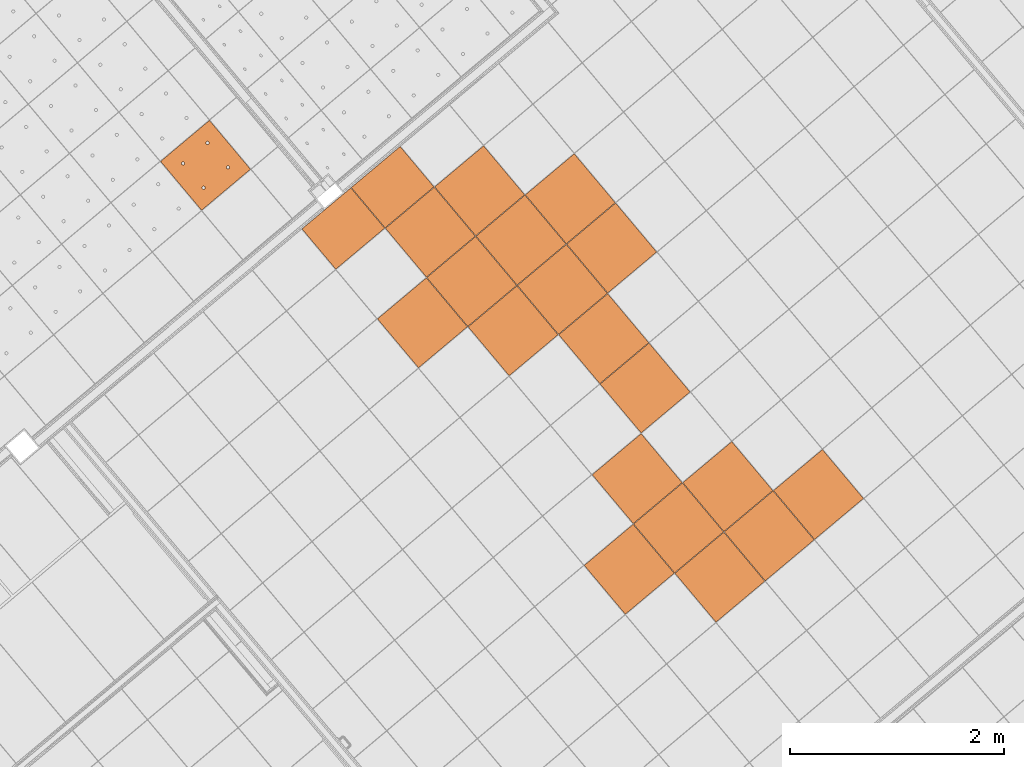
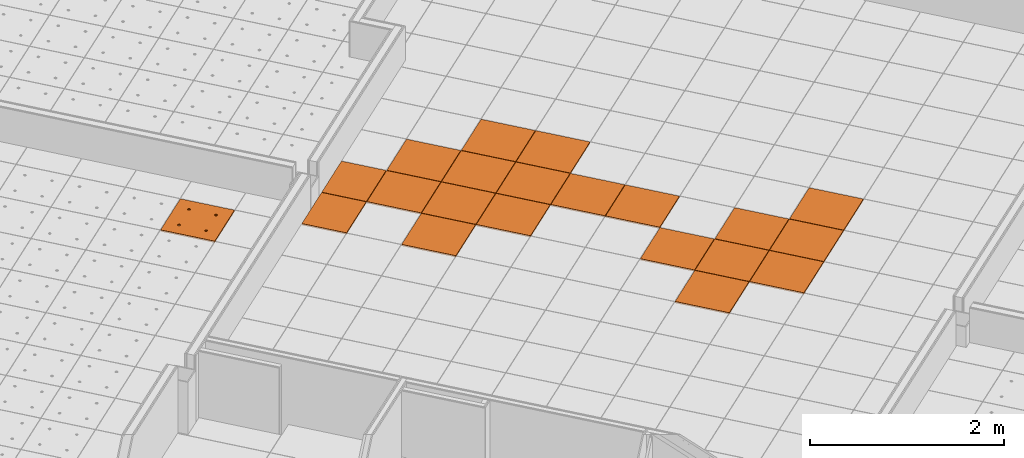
# One storey, part 150 of 338: 21 proxies, 2 elements without a shape of their own.
"""IFC2X3 building model written with IfcOpenShell, lengths in millimetres."""

from ifc_helpers import new_model, entity, si_unit, converted_unit, derived_unit, money_unit, direction, frame, origin_with_axes, place, context, subcontext, project, spatial, faceted_brep, source, transform, mapped, material, type_object, type_shapes, element, aggregate, save


model = new_model("IFC2X3")

# Units and contexts
model_context = context("Model", 3, precision=0.01, world=origin_with_axes(), true_north=direction((0.0, 1.0)))
plan_context = context("Plan", 3, precision=0.01, world=origin_with_axes(), true_north=direction((0.0, 1.0)))
body_context = subcontext(model_context, "Body", "Model", "MODEL_VIEW")
ifc_project = project(units=[si_unit("LENGTHUNIT", "METRE", prefix="MILLI"), si_unit("AREAUNIT", "SQUARE_METRE"), si_unit("VOLUMEUNIT", "CUBIC_METRE"), converted_unit("PLANEANGLEUNIT", "DEGREE", entity("IfcPlaneAngleMeasure", 0.0174532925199), si_unit("PLANEANGLEUNIT", "RADIAN"), dimensions=[0, 0, 0, 0, 0, 0, 0]), money_unit("EUR"), converted_unit("TIMEUNIT", "Year", entity("IfcTimeMeasure", 31556926.0), si_unit("TIMEUNIT", "SECOND"), dimensions=[0, 0, 1, 0, 0, 0, 0]), si_unit("MASSUNIT", "GRAM", prefix="KILO"), si_unit("THERMODYNAMICTEMPERATUREUNIT", "DEGREE_CELSIUS"), si_unit("LUMINOUSINTENSITYUNIT", "LUMEN"), si_unit("ENERGYUNIT", "JOULE", prefix="MEGA"), derived_unit("THERMALCONDUCTANCEUNIT", [(si_unit("POWERUNIT", "WATT"), 1), (si_unit("LENGTHUNIT", "METRE"), -1), (si_unit("THERMODYNAMICTEMPERATUREUNIT", "KELVIN"), -1)]), derived_unit("SPECIFICHEATCAPACITYUNIT", [(si_unit("ENERGYUNIT", "JOULE"), 1), (si_unit("MASSUNIT", "GRAM", prefix="KILO"), -1), (si_unit("THERMODYNAMICTEMPERATUREUNIT", "KELVIN"), -1)]), derived_unit("MASSDENSITYUNIT", [(si_unit("MASSUNIT", "GRAM", prefix="KILO"), 1), (si_unit("VOLUMEUNIT", "CUBIC_METRE"), -1)])], contexts=[model_context, plan_context])

# Site, building, storey
site_placement = place(None, origin_with_axes())
site = spatial("IfcSite", under=ifc_project, at=site_placement, Name="Fortuinstraat Woensdrecht", CompositionType="ELEMENT")
building_placement = place(site_placement, origin_with_axes())
building = spatial("IfcBuilding", under=site, at=building_placement, Name="IKC Fortuna", CompositionType="ELEMENT")
storey_placement = place(building_placement, origin_with_axes())
storey = spatial("IfcBuildingStorey", under=building, at=storey_placement, Name="00 begane grond", CompositionType="ELEMENT", Elevation=0.0)

# Covering, proxies
covering_type = type_object("IfcCoveringType", Name="Curtain Wall Type", PredefinedType="CEILING")
covering_1_placement = place(storey_placement, frame((17937.1227498, -4186.27868692, 4660.0), z_axis=(0.0, 0.0, 1.0), x_axis=(1.0, 0.0, 0.0)))
covering_1 = element("IfcCovering", 1, at=covering_1_placement, inside=storey, type_object=covering_type, Name="45_Plafondafwerking_P02", PredefinedType="CEILING")
ifc_material = material(Name="Gipsplaat")
building_element_proxy_type_1 = type_object("IfcBuildingElementProxyType", Name="Distinct Panel 600 x 600 x 20", PredefinedType="NOTDEFINED")
shared_shape_1 = source(origin_with_axes(), body_context, "Body", "Brep", [
    faceted_brep([(2.49999999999, 2.5, -10.0), (597.5, 2.49999999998, -10.0), (597.5, 2.49999999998, 10.0), (2.49999999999, 2.5, 10.0), (2.50000000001, 597.5, -10.0), (597.5, 597.5, -10.0), (597.5, 597.5, 10.0), (2.50000000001, 597.5, 10.0)], [[[0, 1, 2, 3]], [[0, 4, 5, 1]], [[1, 5, 6, 2]], [[3, 2, 6, 7]], [[4, 0, 3, 7]], [[5, 4, 7, 6]]]),
])
type_shapes(building_element_proxy_type_1, [shared_shape_1])
proxy_1_placement = place(covering_1_placement, frame((-5145.52891833, 3331.89737162, 1.1990408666e-10), z_axis=(0.0, 0.0, 1.0), x_axis=(1.0, 0.0, 0.0)))
proxy_1 = element("IfcBuildingElementProxy", 2, at=proxy_1_placement, type_object=building_element_proxy_type_1, material=ifc_material, Name="__Panel-D", context=body_context, shape_type="MappedRepresentation", body=[
    mapped(shared_shape_1, transform((36.9769427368, 422.649625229, 0.0), x_axis=(-0.766044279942, -0.642787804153, 0.0), y_axis=(0.642787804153, -0.766044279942, 0.0), z_axis=(0.0, 0.0, 1.0))),
])
proxy_2_placement = place(covering_1_placement, frame((-5990.82816879, 3405.85125709, 1.39444011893e-10), z_axis=(0.0, 0.0, 1.0), x_axis=(1.0, 0.0, 0.0)))
proxy_2 = element("IfcBuildingElementProxy", 3, at=proxy_2_placement, type_object=building_element_proxy_type_1, material=ifc_material, Name="__Panel-D", context=body_context, shape_type="MappedRepresentation", body=[
    mapped(shared_shape_1, transform((36.9769427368, 422.649625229, 0.0), x_axis=(-0.766044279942, -0.642787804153, 0.0), y_axis=(0.642787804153, -0.766044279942, 0.0), z_axis=(0.0, 0.0, 1.0))),
])
proxy_3_placement = place(covering_1_placement, frame((-5679.10937177, 2100.92543867, 1.58983937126e-10), z_axis=(0.0, 0.0, 1.0), x_axis=(1.0, 0.0, 0.0)))
proxy_3 = element("IfcBuildingElementProxy", 4, at=proxy_3_placement, type_object=building_element_proxy_type_1, material=ifc_material, Name="__Panel-D", context=body_context, shape_type="MappedRepresentation", body=[
    mapped(shared_shape_1, transform((36.9769427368, 422.649625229, 0.0), x_axis=(-0.766044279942, -0.642787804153, 0.0), y_axis=(0.642787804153, -0.766044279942, 0.0), z_axis=(0.0, 0.0, 1.0))),
])
proxy_4_placement = place(covering_1_placement, frame((-6524.40862223, 2174.87932414, 1.79412040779e-10), z_axis=(0.0, 0.0, 1.0), x_axis=(1.0, 0.0, 0.0)))
proxy_4 = element("IfcBuildingElementProxy", 5, at=proxy_4_placement, type_object=building_element_proxy_type_1, material=ifc_material, Name="__Panel-D", context=body_context, shape_type="MappedRepresentation", body=[
    mapped(shared_shape_1, transform((36.9769427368, 422.649625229, 0.0), x_axis=(-0.766044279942, -0.642787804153, 0.0), y_axis=(0.642787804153, -0.766044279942, 0.0), z_axis=(0.0, 0.0, 1.0))),
])
proxy_5_placement = place(covering_1_placement, frame((-6450.45473675, 3020.1785746, 1.58983937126e-10), z_axis=(0.0, 0.0, 1.0), x_axis=(1.0, 0.0, 0.0)))
proxy_5 = element("IfcBuildingElementProxy", 6, at=proxy_5_placement, type_object=building_element_proxy_type_1, material=ifc_material, Name="__Panel-D", context=body_context, shape_type="MappedRepresentation", body=[
    mapped(shared_shape_1, transform((36.9769427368, 422.649625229, 0.0), x_axis=(-0.766044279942, -0.642787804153, 0.0), y_axis=(0.642787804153, -0.766044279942, 0.0), z_axis=(0.0, 0.0, 1.0))),
])
proxy_6_placement = place(covering_1_placement, frame((-5605.1554863, 2946.22468912, 1.39444011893e-10), z_axis=(0.0, 0.0, 1.0), x_axis=(1.0, 0.0, 0.0)))
proxy_6 = element("IfcBuildingElementProxy", 7, at=proxy_6_placement, type_object=building_element_proxy_type_1, material=ifc_material, Name="__Panel-D", context=body_context, shape_type="MappedRepresentation", body=[
    mapped(shared_shape_1, transform((36.9769427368, 422.649625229, 0.0), x_axis=(-0.766044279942, -0.642787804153, 0.0), y_axis=(0.642787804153, -0.766044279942, 0.0), z_axis=(0.0, 0.0, 1.0))),
])
proxy_7_placement = place(covering_1_placement, frame((-6064.78205426, 2560.55200663, 1.58983937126e-10), z_axis=(0.0, 0.0, 1.0), x_axis=(1.0, 0.0, 0.0)))
proxy_7 = element("IfcBuildingElementProxy", 8, at=proxy_7_placement, type_object=building_element_proxy_type_1, material=ifc_material, Name="__Panel-D", context=body_context, shape_type="MappedRepresentation", body=[
    mapped(shared_shape_1, transform((36.9769427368, 422.649625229, 0.0), x_axis=(-0.766044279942, -0.642787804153, 0.0), y_axis=(0.642787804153, -0.766044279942, 0.0), z_axis=(0.0, 0.0, 1.0))),
])
proxy_8_placement = place(covering_1_placement, frame((-4759.85623584, 2872.27080365, 1.1990408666e-10), z_axis=(0.0, 0.0, 1.0), x_axis=(1.0, 0.0, 0.0)))
proxy_8 = element("IfcBuildingElementProxy", 9, at=proxy_8_placement, type_object=building_element_proxy_type_1, material=ifc_material, Name="__Panel-D", context=body_context, shape_type="MappedRepresentation", body=[
    mapped(shared_shape_1, transform((36.9769427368, 422.649625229, 0.0), x_axis=(-0.766044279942, -0.642787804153, 0.0), y_axis=(0.642787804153, -0.766044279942, 0.0), z_axis=(0.0, 0.0, 1.0))),
])
proxy_9_placement = place(covering_1_placement, frame((-2831.49282338, 574.137963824, 1.1990408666e-10), z_axis=(0.0, 0.0, 1.0), x_axis=(1.0, 0.0, 0.0)))
proxy_9 = element("IfcBuildingElementProxy", 10, at=proxy_9_placement, type_object=building_element_proxy_type_1, material=ifc_material, Name="__Panel-D", context=body_context, shape_type="MappedRepresentation", body=[
    mapped(shared_shape_1, transform((36.9769427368, 422.649625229, 0.0), x_axis=(-0.766044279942, -0.642787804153, 0.0), y_axis=(0.642787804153, -0.766044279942, 0.0), z_axis=(0.0, 0.0, 1.0))),
])
proxy_10_placement = place(covering_1_placement, frame((-5219.4828038, 2486.59812116, 1.39444011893e-10), z_axis=(0.0, 0.0, 1.0), x_axis=(1.0, 0.0, 0.0)))
proxy_10 = element("IfcBuildingElementProxy", 11, at=proxy_10_placement, type_object=building_element_proxy_type_1, material=ifc_material, Name="__Panel-D", context=body_context, shape_type="MappedRepresentation", body=[
    mapped(shared_shape_1, transform((36.9769427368, 422.649625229, 0.0), x_axis=(-0.766044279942, -0.642787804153, 0.0), y_axis=(0.642787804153, -0.766044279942, 0.0), z_axis=(0.0, 0.0, 1.0))),
])
proxy_11_placement = place(covering_1_placement, frame((-4833.81012131, 2026.97155319, 1.39444011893e-10), z_axis=(0.0, 0.0, 1.0), x_axis=(1.0, 0.0, 0.0)))
proxy_11 = element("IfcBuildingElementProxy", 12, at=proxy_11_placement, type_object=building_element_proxy_type_1, material=ifc_material, Name="__Panel-D", context=body_context, shape_type="MappedRepresentation", body=[
    mapped(shared_shape_1, transform((36.9769427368, 422.649625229, 0.0), x_axis=(-0.766044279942, -0.642787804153, 0.0), y_axis=(0.642787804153, -0.766044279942, 0.0), z_axis=(0.0, 0.0, 1.0))),
])
proxy_12_placement = place(covering_1_placement, frame((-4448.13743882, 1567.34498523, 1.39444011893e-10), z_axis=(0.0, 0.0, 1.0), x_axis=(1.0, 0.0, 0.0)))
proxy_12 = element("IfcBuildingElementProxy", 13, at=proxy_12_placement, type_object=building_element_proxy_type_1, material=ifc_material, Name="__Panel-D", context=body_context, shape_type="MappedRepresentation", body=[
    mapped(shared_shape_1, transform((36.9769427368, 422.649625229, 0.0), x_axis=(-0.766044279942, -0.642787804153, 0.0), y_axis=(0.642787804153, -0.766044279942, 0.0), z_axis=(0.0, 0.0, 1.0))),
])
proxy_13_placement = place(covering_1_placement, frame((-3676.79207384, 648.091849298, 1.39444011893e-10), z_axis=(0.0, 0.0, 1.0), x_axis=(1.0, 0.0, 0.0)))
proxy_13 = element("IfcBuildingElementProxy", 14, at=proxy_13_placement, type_object=building_element_proxy_type_1, material=ifc_material, Name="__Panel-D", context=body_context, shape_type="MappedRepresentation", body=[
    mapped(shared_shape_1, transform((36.9769427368, 422.649625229, 0.0), x_axis=(-0.766044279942, -0.642787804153, 0.0), y_axis=(0.642787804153, -0.766044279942, 0.0), z_axis=(0.0, 0.0, 1.0))),
])
proxy_14_placement = place(covering_1_placement, frame((-3291.11939135, 188.465281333, 1.39444011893e-10), z_axis=(0.0, 0.0, 1.0), x_axis=(1.0, 0.0, 0.0)))
proxy_14 = element("IfcBuildingElementProxy", 15, at=proxy_14_placement, type_object=building_element_proxy_type_1, material=ifc_material, Name="__Panel-D", context=body_context, shape_type="MappedRepresentation", body=[
    mapped(shared_shape_1, transform((36.9769427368, 422.649625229, 0.0), x_axis=(-0.766044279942, -0.642787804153, 0.0), y_axis=(0.642787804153, -0.766044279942, 0.0), z_axis=(0.0, 0.0, 1.0))),
])
proxy_15_placement = place(covering_1_placement, frame((-4522.09132429, 722.045734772, 1.58983937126e-10), z_axis=(0.0, 0.0, 1.0), x_axis=(1.0, 0.0, 0.0)))
proxy_15 = element("IfcBuildingElementProxy", 16, at=proxy_15_placement, type_object=building_element_proxy_type_1, material=ifc_material, Name="__Panel-D", context=body_context, shape_type="MappedRepresentation", body=[
    mapped(shared_shape_1, transform((36.9769427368, 422.649625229, 0.0), x_axis=(-0.766044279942, -0.642787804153, 0.0), y_axis=(0.642787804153, -0.766044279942, 0.0), z_axis=(0.0, 0.0, 1.0))),
])
proxy_16_placement = place(covering_1_placement, frame((-4136.4186418, 262.419166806, 1.58983937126e-10), z_axis=(0.0, 0.0, 1.0), x_axis=(1.0, 0.0, 0.0)))
proxy_16 = element("IfcBuildingElementProxy", 17, at=proxy_16_placement, type_object=building_element_proxy_type_1, material=ifc_material, Name="__Panel-D", context=body_context, shape_type="MappedRepresentation", body=[
    mapped(shared_shape_1, transform((36.9769427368, 422.649625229, 0.0), x_axis=(-0.766044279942, -0.642787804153, 0.0), y_axis=(0.642787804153, -0.766044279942, 0.0), z_axis=(0.0, 0.0, 1.0))),
])
proxy_17_placement = place(covering_1_placement, frame((-3750.74595931, -197.207401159, 1.58983937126e-10), z_axis=(0.0, 0.0, 1.0), x_axis=(1.0, 0.0, 0.0)))
proxy_17 = element("IfcBuildingElementProxy", 18, at=proxy_17_placement, type_object=building_element_proxy_type_1, material=ifc_material, Name="__Panel-D", context=body_context, shape_type="MappedRepresentation", body=[
    mapped(shared_shape_1, transform((36.9769427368, 422.649625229, 0.0), x_axis=(-0.766044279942, -0.642787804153, 0.0), y_axis=(0.642787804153, -0.766044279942, 0.0), z_axis=(0.0, 0.0, 1.0))),
])
proxy_18_placement = place(covering_1_placement, frame((-4596.04520977, -123.253515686, 1.79412040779e-10), z_axis=(0.0, 0.0, 1.0), x_axis=(1.0, 0.0, 0.0)))
proxy_18 = element("IfcBuildingElementProxy", 19, at=proxy_18_placement, type_object=building_element_proxy_type_1, material=ifc_material, Name="__Panel-D", context=body_context, shape_type="MappedRepresentation", body=[
    mapped(shared_shape_1, transform((36.9769427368, 422.649625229, 0.0), x_axis=(-0.766044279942, -0.642787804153, 0.0), y_axis=(0.642787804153, -0.766044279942, 0.0), z_axis=(0.0, 0.0, 1.0))),
])
building_element_proxy_type_2 = type_object("IfcBuildingElementProxyType", Name="Distinct Panel 600 x 495 x 20", PredefinedType="NOTDEFINED")
shared_shape_2 = source(origin_with_axes(), body_context, "Body", "Brep", [
    faceted_brep([(2.49999363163, 107.227066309, -10.0), (597.499995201, 107.226926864, -10.0), (597.499995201, 107.226926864, 10.0), (2.49999363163, 107.227066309, 10.0), (2.50000062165, 597.499998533, -10.0), (597.500007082, 597.499990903, -10.0), (597.500007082, 597.499990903, 10.0), (2.50000062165, 597.499998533, 10.0)], [[[0, 1, 2, 3]], [[0, 4, 5, 1]], [[1, 5, 6, 2]], [[3, 2, 6, 7]], [[4, 0, 3, 7]], [[5, 4, 7, 6]]]),
])
type_shapes(building_element_proxy_type_2, [shared_shape_2])
proxy_19_placement = place(covering_1_placement, frame((-7262.09523736, 3054.0195447, 1.79412040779e-10), z_axis=(0.0, 0.0, 1.0), x_axis=(1.0, 0.0, 0.0)))
proxy_19 = element("IfcBuildingElementProxy", 20, at=proxy_19_placement, type_object=building_element_proxy_type_2, material=ifc_material, Name="__Panel-D", context=body_context, shape_type="MappedRepresentation", body=[
    mapped(shared_shape_2, transform((3.31819288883, 462.762540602, 0.0), x_axis=(-0.766044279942, -0.642787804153, 0.0), y_axis=(0.642787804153, -0.766044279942, 0.0), z_axis=(0.0, 0.0, 1.0))),
])
proxy_20_placement = place(covering_1_placement, frame((-6802.46862553, 3439.69217491, 1.58983937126e-10), z_axis=(0.0, 0.0, 1.0), x_axis=(1.0, 0.0, 0.0)))
proxy_20 = element("IfcBuildingElementProxy", 21, at=proxy_20_placement, type_object=building_element_proxy_type_2, material=ifc_material, Name="__Panel-D", context=body_context, shape_type="MappedRepresentation", body=[
    mapped(shared_shape_2, transform((3.3181490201, 462.762592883, 0.0), x_axis=(-0.766044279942, -0.642787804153, 0.0), y_axis=(0.642787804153, -0.766044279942, 0.0), z_axis=(0.0, 0.0, 1.0))),
])
aggregate(covering_1, [proxy_1, proxy_2, proxy_3, proxy_4, proxy_19, proxy_5, proxy_6, proxy_7, proxy_8, proxy_9, proxy_10, proxy_11, proxy_12, proxy_13, proxy_14, proxy_15, proxy_16, proxy_17, proxy_18, proxy_20])

# Covering, proxy
covering_2_placement = place(storey_placement, frame((9775.85169731, -1002.28242867, 4660.0), z_axis=(0.0, 0.0, 1.0), x_axis=(1.0, 0.0, 0.0)))
covering_2 = element("IfcCovering", 22, at=covering_2_placement, inside=storey, type_object=covering_type, Name="45_Plafondafwerking_P01", PredefinedType="CEILING")
building_element_proxy_type_3 = type_object("IfcBuildingElementProxyType", Name="Main Panel 600 x 600 x 20", PredefinedType="NOTDEFINED")
shared_shape_3 = source(origin_with_axes(), body_context, "Body", "Brep", [
    faceted_brep([(2.49999999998, 2.49999999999, -10.0), (300.0, 2.49999999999, -10.0), (300.0, 2.49999999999, 10.0), (2.49999999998, 2.49999999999, 10.0), (2.49999999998, 300.0, -10.0), (2.49999999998, 597.5, -10.0), (300.0, 597.5, -10.0), (597.5, 597.5, -10.0), (597.5, 300.0, -10.0), (597.5, 2.49999999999, -10.0), (166.25, 450.06232995, -10.0), (165.79423259, 452.64711538, -10.0), (164.896546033, 455.11348892, -10.0), (163.58421608, 457.38651108, -10.0), (161.897117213, 459.39711721, -10.0), (159.886511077, 461.08421608, -10.0), (157.613488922, 462.39654603, -10.0), (155.147115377, 463.29423259, -10.0), (152.562329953, 463.75, -10.0), (149.937670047, 463.75, -10.0), (147.352884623, 463.29423259, -10.0), (144.886511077, 462.39654603, -10.0), (142.613488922, 461.08421608, -10.0), (140.602882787, 459.39711721, -10.0), (138.91578392, 457.38651108, -10.0), (137.603453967, 455.11348892, -10.0), (136.705767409, 452.64711538, -10.0), (136.25, 450.06232995, -10.0), (136.25, 448.75, -10.0), (136.25, 447.43767005, -10.0), (136.705767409, 444.85288462, -10.0), (137.603453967, 442.38651108, -10.0), (138.91578392, 440.11348892, -10.0), (140.602882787, 438.10288279, -10.0), (142.613488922, 436.41578392, -10.0), (144.886511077, 435.10345397, -10.0), (147.352884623, 434.20576741, -10.0), (149.937670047, 433.75, -10.0), (152.562329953, 433.75, -10.0), (155.147115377, 434.20576741, -10.0), (157.613488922, 435.10345397, -10.0), (159.886511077, 436.41578392, -10.0), (161.897117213, 438.10288279, -10.0), (163.58421608, 440.11348892, -10.0), (164.896546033, 442.38651108, -10.0), (165.79423259, 444.85288462, -10.0), (166.25, 447.43767005, -10.0), (463.75, 450.06232995, -10.0), (463.29423259, 452.64711538, -10.0), (462.396546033, 455.11348892, -10.0), (461.08421608, 457.38651108, -10.0), (459.397117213, 459.39711721, -10.0), (457.386511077, 461.08421608, -10.0), (455.113488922, 462.39654603, -10.0), (452.647115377, 463.29423259, -10.0), (450.062329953, 463.75, -10.0), (447.437670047, 463.75, -10.0), (444.852884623, 463.29423259, -10.0), (442.386511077, 462.39654603, -10.0), (440.113488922, 461.08421608, -10.0), (438.102882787, 459.39711721, -10.0), (436.41578392, 457.38651108, -10.0), (435.103453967, 455.11348892, -10.0), (434.205767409, 452.64711538, -10.0), (433.75, 450.06232995, -10.0), (433.75, 448.75, -10.0), (433.75, 447.43767005, -10.0), (434.205767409, 444.85288462, -10.0), (435.103453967, 442.38651108, -10.0), (436.41578392, 440.11348892, -10.0), (438.102882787, 438.10288279, -10.0), (440.113488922, 436.41578392, -10.0), (442.386511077, 435.10345397, -10.0), (444.852884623, 434.20576741, -10.0), (447.437670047, 433.75, -10.0), (450.062329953, 433.75, -10.0), (452.647115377, 434.20576741, -10.0), (455.113488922, 435.10345397, -10.0), (457.386511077, 436.41578392, -10.0), (459.397117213, 438.10288279, -10.0), (461.08421608, 440.11348892, -10.0), (462.396546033, 442.38651108, -10.0), (463.29423259, 444.85288462, -10.0), (463.75, 447.43767005, -10.0), (463.75, 152.56232995, -10.0), (463.29423259, 155.14711538, -10.0), (462.396546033, 157.61348892, -10.0), (461.08421608, 159.88651108, -10.0), (459.397117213, 161.89711721, -10.0), (457.386511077, 163.58421608, -10.0), (455.113488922, 164.89654603, -10.0), (452.647115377, 165.79423259, -10.0), (450.062329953, 166.25, -10.0), (447.437670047, 166.25, -10.0), (444.852884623, 165.79423259, -10.0), (442.386511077, 164.89654603, -10.0), (440.113488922, 163.58421608, -10.0), (438.102882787, 161.89711721, -10.0), (436.41578392, 159.88651108, -10.0), (435.103453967, 157.61348892, -10.0), (434.205767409, 155.14711538, -10.0), (433.75, 152.56232995, -10.0), (433.75, 151.25, -10.0), (433.75, 149.93767005, -10.0), (434.205767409, 147.35288462, -10.0), (435.103453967, 144.88651108, -10.0), (436.41578392, 142.61348892, -10.0), (438.102882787, 140.60288279, -10.0), (440.113488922, 138.91578392, -10.0), (442.386511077, 137.60345397, -10.0), (444.852884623, 136.70576741, -10.0), (447.437670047, 136.25, -10.0), (450.062329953, 136.25, -10.0), (452.647115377, 136.70576741, -10.0), (455.113488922, 137.60345397, -10.0), (457.386511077, 138.91578392, -10.0), (459.397117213, 140.60288279, -10.0), (461.08421608, 142.61348892, -10.0), (462.396546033, 144.88651108, -10.0), (463.29423259, 147.35288462, -10.0), (463.75, 149.93767005, -10.0), (166.25, 152.56232995, -10.0), (165.79423259, 155.14711538, -10.0), (164.896546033, 157.61348892, -10.0), (163.58421608, 159.88651108, -10.0), (161.897117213, 161.89711721, -10.0), (159.886511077, 163.58421608, -10.0), (157.613488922, 164.89654603, -10.0), (155.147115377, 165.79423259, -10.0), (152.562329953, 166.25, -10.0), (149.937670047, 166.25, -10.0), (147.352884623, 165.79423259, -10.0), (144.886511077, 164.89654603, -10.0), (142.613488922, 163.58421608, -10.0), (140.602882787, 161.89711721, -10.0), (138.91578392, 159.88651108, -10.0), (137.603453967, 157.61348892, -10.0), (136.705767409, 155.14711538, -10.0), (136.25, 152.56232995, -10.0), (136.25, 151.25, -10.0), (136.25, 149.93767005, -10.0), (136.705767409, 147.35288462, -10.0), (137.603453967, 144.88651108, -10.0), (138.91578392, 142.61348892, -10.0), (140.602882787, 140.60288279, -10.0), (142.613488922, 138.91578392, -10.0), (144.886511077, 137.60345397, -10.0), (147.352884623, 136.70576741, -10.0), (149.937670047, 136.25, -10.0), (152.562329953, 136.25, -10.0), (155.147115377, 136.70576741, -10.0), (157.613488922, 137.60345397, -10.0), (159.886511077, 138.91578392, -10.0), (161.897117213, 140.60288279, -10.0), (163.58421608, 142.61348892, -10.0), (164.896546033, 144.88651108, -10.0), (165.79423259, 147.35288462, -10.0), (166.25, 149.93767005, -10.0), (597.5, 2.49999999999, 10.0), (597.5, 300.0, 10.0), (597.5, 597.5, 10.0), (300.0, 597.5, 10.0), (2.49999999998, 597.5, 10.0), (2.49999999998, 300.0, 10.0), (166.25, 450.06232995, 10.0), (166.25, 447.43767005, 10.0), (165.79423259, 444.85288462, 10.0), (164.896546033, 442.38651108, 10.0), (163.58421608, 440.11348892, 10.0), (161.897117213, 438.10288279, 10.0), (159.886511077, 436.41578392, 10.0), (157.613488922, 435.10345397, 10.0), (155.147115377, 434.20576741, 10.0), (152.562329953, 433.75, 10.0), (149.937670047, 433.75, 10.0), (147.352884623, 434.20576741, 10.0), (144.886511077, 435.10345397, 10.0), (142.613488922, 436.41578392, 10.0), (140.602882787, 438.10288279, 10.0), (138.91578392, 440.11348892, 10.0), (137.603453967, 442.38651108, 10.0), (136.705767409, 444.85288462, 10.0), (136.25, 447.43767005, 10.0), (136.25, 448.75, 10.0), (136.25, 450.06232995, 10.0), (136.705767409, 452.64711538, 10.0), (137.603453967, 455.11348892, 10.0), (138.91578392, 457.38651108, 10.0), (140.602882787, 459.39711721, 10.0), (142.613488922, 461.08421608, 10.0), (144.886511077, 462.39654603, 10.0), (147.352884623, 463.29423259, 10.0), (149.937670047, 463.75, 10.0), (152.562329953, 463.75, 10.0), (155.147115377, 463.29423259, 10.0), (157.613488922, 462.39654603, 10.0), (159.886511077, 461.08421608, 10.0), (161.897117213, 459.39711721, 10.0), (163.58421608, 457.38651108, 10.0), (164.896546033, 455.11348892, 10.0), (165.79423259, 452.64711538, 10.0), (463.75, 450.06232995, 10.0), (463.75, 447.43767005, 10.0), (463.29423259, 444.85288462, 10.0), (462.396546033, 442.38651108, 10.0), (461.08421608, 440.11348892, 10.0), (459.397117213, 438.10288279, 10.0), (457.386511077, 436.41578392, 10.0), (455.113488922, 435.10345397, 10.0), (452.647115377, 434.20576741, 10.0), (450.062329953, 433.75, 10.0), (447.437670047, 433.75, 10.0), (444.852884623, 434.20576741, 10.0), (442.386511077, 435.10345397, 10.0), (440.113488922, 436.41578392, 10.0), (438.102882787, 438.10288279, 10.0), (436.41578392, 440.11348892, 10.0), (435.103453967, 442.38651108, 10.0), (434.205767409, 444.85288462, 10.0), (433.75, 447.43767005, 10.0), (433.75, 448.75, 10.0), (433.75, 450.06232995, 10.0), (434.205767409, 452.64711538, 10.0), (435.103453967, 455.11348892, 10.0), (436.41578392, 457.38651108, 10.0), (438.102882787, 459.39711721, 10.0), (440.113488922, 461.08421608, 10.0), (442.386511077, 462.39654603, 10.0), (444.852884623, 463.29423259, 10.0), (447.437670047, 463.75, 10.0), (450.062329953, 463.75, 10.0), (452.647115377, 463.29423259, 10.0), (455.113488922, 462.39654603, 10.0), (457.386511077, 461.08421608, 10.0), (459.397117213, 459.39711721, 10.0), (461.08421608, 457.38651108, 10.0), (462.396546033, 455.11348892, 10.0), (463.29423259, 452.64711538, 10.0), (463.75, 152.56232995, 10.0), (463.75, 149.93767005, 10.0), (463.29423259, 147.35288462, 10.0), (462.396546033, 144.88651108, 10.0), (461.08421608, 142.61348892, 10.0), (459.397117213, 140.60288279, 10.0), (457.386511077, 138.91578392, 10.0), (455.113488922, 137.60345397, 10.0), (452.647115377, 136.70576741, 10.0), (450.062329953, 136.25, 10.0), (447.437670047, 136.25, 10.0), (444.852884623, 136.70576741, 10.0), (442.386511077, 137.60345397, 10.0), (440.113488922, 138.91578392, 10.0), (438.102882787, 140.60288279, 10.0), (436.41578392, 142.61348892, 10.0), (435.103453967, 144.88651108, 10.0), (434.205767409, 147.35288462, 10.0), (433.75, 149.93767005, 10.0), (433.75, 151.25, 10.0), (433.75, 152.56232995, 10.0), (434.205767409, 155.14711538, 10.0), (435.103453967, 157.61348892, 10.0), (436.41578392, 159.88651108, 10.0), (438.102882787, 161.89711721, 10.0), (440.113488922, 163.58421608, 10.0), (442.386511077, 164.89654603, 10.0), (444.852884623, 165.79423259, 10.0), (447.437670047, 166.25, 10.0), (450.062329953, 166.25, 10.0), (452.647115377, 165.79423259, 10.0), (455.113488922, 164.89654603, 10.0), (457.386511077, 163.58421608, 10.0), (459.397117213, 161.89711721, 10.0), (461.08421608, 159.88651108, 10.0), (462.396546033, 157.61348892, 10.0), (463.29423259, 155.14711538, 10.0), (166.25, 152.56232995, 10.0), (166.25, 149.93767005, 10.0), (165.79423259, 147.35288462, 10.0), (164.896546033, 144.88651108, 10.0), (163.58421608, 142.61348892, 10.0), (161.897117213, 140.60288279, 10.0), (159.886511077, 138.91578392, 10.0), (157.613488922, 137.60345397, 10.0), (155.147115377, 136.70576741, 10.0), (152.562329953, 136.25, 10.0), (149.937670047, 136.25, 10.0), (147.352884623, 136.70576741, 10.0), (144.886511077, 137.60345397, 10.0), (142.613488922, 138.91578392, 10.0), (140.602882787, 140.60288279, 10.0), (138.91578392, 142.61348892, 10.0), (137.603453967, 144.88651108, 10.0), (136.705767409, 147.35288462, 10.0), (136.25, 149.93767005, 10.0), (136.25, 151.25, 10.0), (136.25, 152.56232995, 10.0), (136.705767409, 155.14711538, 10.0), (137.603453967, 157.61348892, 10.0), (138.91578392, 159.88651108, 10.0), (140.602882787, 161.89711721, 10.0), (142.613488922, 163.58421608, 10.0), (144.886511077, 164.89654603, 10.0), (147.352884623, 165.79423259, 10.0), (149.937670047, 166.25, 10.0), (152.562329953, 166.25, 10.0), (155.147115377, 165.79423259, 10.0), (157.613488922, 164.89654603, 10.0), (159.886511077, 163.58421608, 10.0), (161.897117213, 161.89711721, 10.0), (163.58421608, 159.88651108, 10.0), (164.896546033, 157.61348892, 10.0), (165.79423259, 155.14711538, 10.0)], [[[0, 1, 2, 3]], [[0, 4, 5, 6, 7, 8, 9, 1], [10, 11, 12, 13, 14, 15, 16, 17, 18, 19, 20, 21, 22, 23, 24, 25, 26, 27, 28, 29, 30, 31, 32, 33, 34, 35, 36, 37, 38, 39, 40, 41, 42, 43, 44, 45, 46], [47, 48, 49, 50, 51, 52, 53, 54, 55, 56, 57, 58, 59, 60, 61, 62, 63, 64, 65, 66, 67, 68, 69, 70, 71, 72, 73, 74, 75, 76, 77, 78, 79, 80, 81, 82, 83], [84, 85, 86, 87, 88, 89, 90, 91, 92, 93, 94, 95, 96, 97, 98, 99, 100, 101, 102, 103, 104, 105, 106, 107, 108, 109, 110, 111, 112, 113, 114, 115, 116, 117, 118, 119, 120], [121, 122, 123, 124, 125, 126, 127, 128, 129, 130, 131, 132, 133, 134, 135, 136, 137, 138, 139, 140, 141, 142, 143, 144, 145, 146, 147, 148, 149, 150, 151, 152, 153, 154, 155, 156, 157]], [[1, 9, 158, 2]], [[3, 2, 158, 159, 160, 161, 162, 163], [164, 165, 166, 167, 168, 169, 170, 171, 172, 173, 174, 175, 176, 177, 178, 179, 180, 181, 182, 183, 184, 185, 186, 187, 188, 189, 190, 191, 192, 193, 194, 195, 196, 197, 198, 199, 200], [201, 202, 203, 204, 205, 206, 207, 208, 209, 210, 211, 212, 213, 214, 215, 216, 217, 218, 219, 220, 221, 222, 223, 224, 225, 226, 227, 228, 229, 230, 231, 232, 233, 234, 235, 236, 237], [238, 239, 240, 241, 242, 243, 244, 245, 246, 247, 248, 249, 250, 251, 252, 253, 254, 255, 256, 257, 258, 259, 260, 261, 262, 263, 264, 265, 266, 267, 268, 269, 270, 271, 272, 273, 274], [275, 276, 277, 278, 279, 280, 281, 282, 283, 284, 285, 286, 287, 288, 289, 290, 291, 292, 293, 294, 295, 296, 297, 298, 299, 300, 301, 302, 303, 304, 305, 306, 307, 308, 309, 310, 311]], [[4, 0, 3, 163]], [[5, 4, 163, 162]], [[6, 5, 162, 161]], [[7, 6, 161, 160]], [[8, 7, 160, 159]], [[9, 8, 159, 158]], [[11, 10, 164, 200]], [[12, 11, 200, 199]], [[13, 12, 199, 198]], [[14, 13, 198, 197]], [[15, 14, 197, 196]], [[16, 15, 196, 195]], [[17, 16, 195, 194]], [[18, 17, 194, 193]], [[19, 18, 193, 192]], [[20, 19, 192, 191]], [[21, 20, 191, 190]], [[22, 21, 190, 189]], [[23, 22, 189, 188]], [[24, 23, 188, 187]], [[25, 24, 187, 186]], [[26, 25, 186, 185]], [[27, 26, 185, 184]], [[28, 27, 184, 183]], [[29, 28, 183, 182]], [[30, 29, 182, 181]], [[31, 30, 181, 180]], [[32, 31, 180, 179]], [[33, 32, 179, 178]], [[34, 33, 178, 177]], [[35, 34, 177, 176]], [[36, 35, 176, 175]], [[37, 36, 175, 174]], [[38, 37, 174, 173]], [[39, 38, 173, 172]], [[40, 39, 172, 171]], [[41, 40, 171, 170]], [[42, 41, 170, 169]], [[43, 42, 169, 168]], [[44, 43, 168, 167]], [[45, 44, 167, 166]], [[46, 45, 166, 165]], [[10, 46, 165, 164]], [[48, 47, 201, 237]], [[49, 48, 237, 236]], [[50, 49, 236, 235]], [[51, 50, 235, 234]], [[52, 51, 234, 233]], [[53, 52, 233, 232]], [[54, 53, 232, 231]], [[55, 54, 231, 230]], [[56, 55, 230, 229]], [[57, 56, 229, 228]], [[58, 57, 228, 227]], [[59, 58, 227, 226]], [[60, 59, 226, 225]], [[61, 60, 225, 224]], [[62, 61, 224, 223]], [[63, 62, 223, 222]], [[64, 63, 222, 221]], [[65, 64, 221, 220]], [[66, 65, 220, 219]], [[67, 66, 219, 218]], [[68, 67, 218, 217]], [[69, 68, 217, 216]], [[70, 69, 216, 215]], [[71, 70, 215, 214]], [[72, 71, 214, 213]], [[73, 72, 213, 212]], [[74, 73, 212, 211]], [[75, 74, 211, 210]], [[76, 75, 210, 209]], [[77, 76, 209, 208]], [[78, 77, 208, 207]], [[79, 78, 207, 206]], [[80, 79, 206, 205]], [[81, 80, 205, 204]], [[82, 81, 204, 203]], [[83, 82, 203, 202]], [[47, 83, 202, 201]], [[85, 84, 238, 274]], [[86, 85, 274, 273]], [[87, 86, 273, 272]], [[88, 87, 272, 271]], [[89, 88, 271, 270]], [[90, 89, 270, 269]], [[91, 90, 269, 268]], [[92, 91, 268, 267]], [[93, 92, 267, 266]], [[94, 93, 266, 265]], [[95, 94, 265, 264]], [[96, 95, 264, 263]], [[97, 96, 263, 262]], [[98, 97, 262, 261]], [[99, 98, 261, 260]], [[100, 99, 260, 259]], [[101, 100, 259, 258]], [[102, 101, 258, 257]], [[103, 102, 257, 256]], [[104, 103, 256, 255]], [[105, 104, 255, 254]], [[106, 105, 254, 253]], [[107, 106, 253, 252]], [[108, 107, 252, 251]], [[109, 108, 251, 250]], [[110, 109, 250, 249]], [[111, 110, 249, 248]], [[112, 111, 248, 247]], [[113, 112, 247, 246]], [[114, 113, 246, 245]], [[115, 114, 245, 244]], [[116, 115, 244, 243]], [[117, 116, 243, 242]], [[118, 117, 242, 241]], [[119, 118, 241, 240]], [[120, 119, 240, 239]], [[84, 120, 239, 238]], [[122, 121, 275, 311]], [[123, 122, 311, 310]], [[124, 123, 310, 309]], [[125, 124, 309, 308]], [[126, 125, 308, 307]], [[127, 126, 307, 306]], [[128, 127, 306, 305]], [[129, 128, 305, 304]], [[130, 129, 304, 303]], [[131, 130, 303, 302]], [[132, 131, 302, 301]], [[133, 132, 301, 300]], [[134, 133, 300, 299]], [[135, 134, 299, 298]], [[136, 135, 298, 297]], [[137, 136, 297, 296]], [[138, 137, 296, 295]], [[139, 138, 295, 294]], [[140, 139, 294, 293]], [[141, 140, 293, 292]], [[142, 141, 292, 291]], [[143, 142, 291, 290]], [[144, 143, 290, 289]], [[145, 144, 289, 288]], [[146, 145, 288, 287]], [[147, 146, 287, 286]], [[148, 147, 286, 285]], [[149, 148, 285, 284]], [[150, 149, 284, 283]], [[151, 150, 283, 282]], [[152, 151, 282, 281]], [[153, 152, 281, 280]], [[154, 153, 280, 279]], [[155, 154, 279, 278]], [[156, 155, 278, 277]], [[157, 156, 277, 276]], [[121, 157, 276, 275]]]),
])
type_shapes(building_element_proxy_type_3, [shared_shape_3])
proxy_21_placement = place(covering_2_placement, frame((-385.672696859, 459.626585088, 0.0), z_axis=(0.0, 0.0, 1.0), x_axis=(1.0, 0.0, 0.0)))
proxy_21 = element("IfcBuildingElementProxy", 23, at=proxy_21_placement, type_object=building_element_proxy_type_3, material=ifc_material, Name="__600x697 Rockfon Krios", context=body_context, shape_type="MappedRepresentation", body=[
    mapped(shared_shape_3, transform((36.9769427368, 422.649625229, 0.0), x_axis=(-0.766044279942, -0.642787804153, 0.0), y_axis=(0.642787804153, -0.766044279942, 0.0), z_axis=(0.0, 0.0, 1.0))),
])
aggregate(covering_2, [proxy_21])

save(model, "model.ifc")
